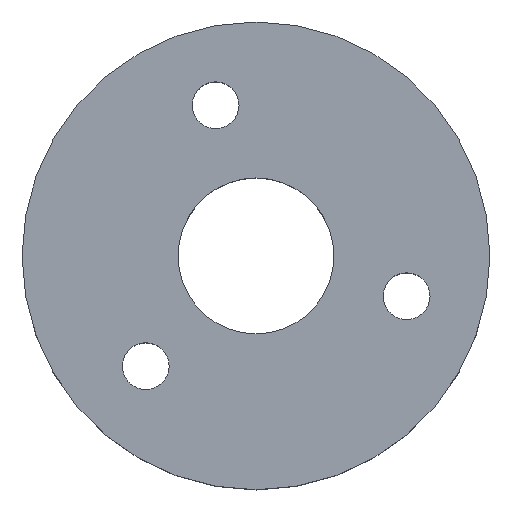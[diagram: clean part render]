
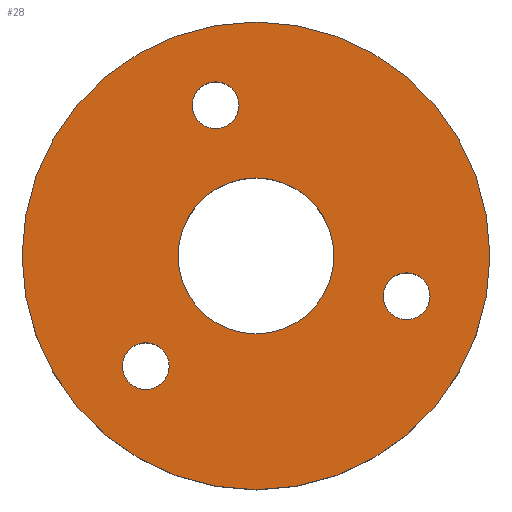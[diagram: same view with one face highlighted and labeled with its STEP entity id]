
A CAD part, top view. The second image highlights one B-rep face of the part: STEP entity #28.
In plain terms, the highlighted planar face has unit normal (0, 0, 1) as drawn and (0, 1, 0) by its records, which use the part's own axes.
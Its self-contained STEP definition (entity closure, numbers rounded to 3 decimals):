
#28 = ADVANCED_FACE('',(#29,#65,#100,#131,#166),#42,.F.);
#29 = FACE_BOUND('',#30,.T.);
#30 = EDGE_LOOP('',(#31));
#31 = ORIENTED_EDGE('',*,*,#32,.F.);
#32 = EDGE_CURVE('',#33,#33,#35,.T.);
#33 = VERTEX_POINT('',#34);
#34 = CARTESIAN_POINT('',(30.,15.,0.));
#35 = SURFACE_CURVE('',#36,(#41,#53),.PCURVE_S1.);
#36 = CIRCLE('',#37,30.);
#37 = AXIS2_PLACEMENT_3D('',#38,#39,#40);
#38 = CARTESIAN_POINT('',(0.,15.,0.));
#39 = DIRECTION('',(0.,-1.,0.));
#40 = DIRECTION('',(1.,0.,0.));
#41 = PCURVE('',#42,#47);
#42 = PLANE('',#43);
#43 = AXIS2_PLACEMENT_3D('',#44,#45,#46);
#44 = CARTESIAN_POINT('',(0.,15.,0.));
#45 = DIRECTION('',(0.,-1.,0.));
#46 = DIRECTION('',(1.,0.,0.));
#47 = DEFINITIONAL_REPRESENTATION('',(#48),#52);
#48 = CIRCLE('',#49,30.);
#49 = AXIS2_PLACEMENT_2D('',#50,#51);
#50 = CARTESIAN_POINT('',(0.,0.));
#51 = DIRECTION('',(1.,0.));
#52 = ( GEOMETRIC_REPRESENTATION_CONTEXT(2) 
PARAMETRIC_REPRESENTATION_CONTEXT() REPRESENTATION_CONTEXT('2D SPACE',''
  ) );
#53 = PCURVE('',#54,#59);
#54 = CYLINDRICAL_SURFACE('',#55,30.);
#55 = AXIS2_PLACEMENT_3D('',#56,#57,#58);
#56 = CARTESIAN_POINT('',(0.,15.,0.));
#57 = DIRECTION('',(0.,-1.,0.));
#58 = DIRECTION('',(1.,0.,0.));
#59 = DEFINITIONAL_REPRESENTATION('',(#60),#64);
#60 = LINE('',#61,#62);
#61 = CARTESIAN_POINT('',(0.,0.));
#62 = VECTOR('',#63,1.);
#63 = DIRECTION('',(1.,0.));
#64 = ( GEOMETRIC_REPRESENTATION_CONTEXT(2) 
PARAMETRIC_REPRESENTATION_CONTEXT() REPRESENTATION_CONTEXT('2D SPACE',''
  ) );
#65 = FACE_BOUND('',#66,.T.);
#66 = EDGE_LOOP('',(#67));
#67 = ORIENTED_EDGE('',*,*,#68,.F.);
#68 = EDGE_CURVE('',#69,#69,#71,.T.);
#69 = VERTEX_POINT('',#70);
#70 = CARTESIAN_POINT('',(-8.176,15.,-19.319));
#71 = SURFACE_CURVE('',#72,(#77,#88),.PCURVE_S1.);
#72 = CIRCLE('',#73,3.);
#73 = AXIS2_PLACEMENT_3D('',#74,#75,#76);
#74 = CARTESIAN_POINT('',(-5.176,15.,-19.319));
#75 = DIRECTION('',(0.,1.,0.));
#76 = DIRECTION('',(-1.,0.,0.));
#77 = PCURVE('',#42,#78);
#78 = DEFINITIONAL_REPRESENTATION('',(#79),#87);
#79 = ( BOUNDED_CURVE() B_SPLINE_CURVE(2,(#80,#81,#82,#83,#84,#85,#86),
.UNSPECIFIED.,.T.,.F.) B_SPLINE_CURVE_WITH_KNOTS((1,2,2,2,2,1),(
    -2.094,0.,2.094,4.189,6.283,
8.378),.UNSPECIFIED.) CURVE() GEOMETRIC_REPRESENTATION_ITEM() 
RATIONAL_B_SPLINE_CURVE((1.,0.5,1.,0.5,1.,0.5,1.)) REPRESENTATION_ITEM(
  '') );
#80 = CARTESIAN_POINT('',(-8.176,-19.319));
#81 = CARTESIAN_POINT('',(-8.176,-14.122));
#82 = CARTESIAN_POINT('',(-3.676,-16.72));
#83 = CARTESIAN_POINT('',(0.824,-19.319));
#84 = CARTESIAN_POINT('',(-3.676,-21.917));
#85 = CARTESIAN_POINT('',(-8.176,-24.515));
#86 = CARTESIAN_POINT('',(-8.176,-19.319));
#87 = ( GEOMETRIC_REPRESENTATION_CONTEXT(2) 
PARAMETRIC_REPRESENTATION_CONTEXT() REPRESENTATION_CONTEXT('2D SPACE',''
  ) );
#88 = PCURVE('',#89,#94);
#89 = CYLINDRICAL_SURFACE('',#90,3.);
#90 = AXIS2_PLACEMENT_3D('',#91,#92,#93);
#91 = CARTESIAN_POINT('',(-5.176,15.,-19.319));
#92 = DIRECTION('',(0.,1.,0.));
#93 = DIRECTION('',(-1.,0.,0.));
#94 = DEFINITIONAL_REPRESENTATION('',(#95),#99);
#95 = LINE('',#96,#97);
#96 = CARTESIAN_POINT('',(0.,0.));
#97 = VECTOR('',#98,1.);
#98 = DIRECTION('',(1.,0.));
#99 = ( GEOMETRIC_REPRESENTATION_CONTEXT(2) 
PARAMETRIC_REPRESENTATION_CONTEXT() REPRESENTATION_CONTEXT('2D SPACE',''
  ) );
#100 = FACE_BOUND('',#101,.T.);
#101 = EDGE_LOOP('',(#102));
#102 = ORIENTED_EDGE('',*,*,#103,.T.);
#103 = EDGE_CURVE('',#104,#104,#106,.T.);
#104 = VERTEX_POINT('',#105);
#105 = CARTESIAN_POINT('',(10.,15.,0.));
#106 = SURFACE_CURVE('',#107,(#112,#119),.PCURVE_S1.);
#107 = CIRCLE('',#108,10.);
#108 = AXIS2_PLACEMENT_3D('',#109,#110,#111);
#109 = CARTESIAN_POINT('',(0.,15.,0.));
#110 = DIRECTION('',(0.,-1.,0.));
#111 = DIRECTION('',(1.,0.,0.));
#112 = PCURVE('',#42,#113);
#113 = DEFINITIONAL_REPRESENTATION('',(#114),#118);
#114 = CIRCLE('',#115,10.);
#115 = AXIS2_PLACEMENT_2D('',#116,#117);
#116 = CARTESIAN_POINT('',(0.,0.));
#117 = DIRECTION('',(1.,0.));
#118 = ( GEOMETRIC_REPRESENTATION_CONTEXT(2) 
PARAMETRIC_REPRESENTATION_CONTEXT() REPRESENTATION_CONTEXT('2D SPACE',''
  ) );
#119 = PCURVE('',#120,#125);
#120 = CYLINDRICAL_SURFACE('',#121,10.);
#121 = AXIS2_PLACEMENT_3D('',#122,#123,#124);
#122 = CARTESIAN_POINT('',(0.,0.,0.));
#123 = DIRECTION('',(0.,1.,0.));
#124 = DIRECTION('',(1.,0.,0.));
#125 = DEFINITIONAL_REPRESENTATION('',(#126),#130);
#126 = LINE('',#127,#128);
#127 = CARTESIAN_POINT('',(-0.,15.));
#128 = VECTOR('',#129,1.);
#129 = DIRECTION('',(-1.,0.));
#130 = ( GEOMETRIC_REPRESENTATION_CONTEXT(2) 
PARAMETRIC_REPRESENTATION_CONTEXT() REPRESENTATION_CONTEXT('2D SPACE',''
  ) );
#131 = FACE_BOUND('',#132,.T.);
#132 = EDGE_LOOP('',(#133));
#133 = ORIENTED_EDGE('',*,*,#134,.F.);
#134 = EDGE_CURVE('',#135,#135,#137,.T.);
#135 = VERTEX_POINT('',#136);
#136 = CARTESIAN_POINT('',(-17.142,15.,14.142));
#137 = SURFACE_CURVE('',#138,(#143,#154),.PCURVE_S1.);
#138 = CIRCLE('',#139,3.);
#139 = AXIS2_PLACEMENT_3D('',#140,#141,#142);
#140 = CARTESIAN_POINT('',(-14.142,15.,14.142));
#141 = DIRECTION('',(0.,1.,0.));
#142 = DIRECTION('',(-1.,0.,0.));
#143 = PCURVE('',#42,#144);
#144 = DEFINITIONAL_REPRESENTATION('',(#145),#153);
#145 = ( BOUNDED_CURVE() B_SPLINE_CURVE(2,(#146,#147,#148,#149,#150,#151
,#152),.UNSPECIFIED.,.T.,.F.) B_SPLINE_CURVE_WITH_KNOTS((1,2,2,2,2,1),(
    -2.094,0.,2.094,4.189,6.283,
8.378),.UNSPECIFIED.) CURVE() GEOMETRIC_REPRESENTATION_ITEM() 
RATIONAL_B_SPLINE_CURVE((1.,0.5,1.,0.5,1.,0.5,1.)) REPRESENTATION_ITEM(
  '') );
#146 = CARTESIAN_POINT('',(-17.142,14.142));
#147 = CARTESIAN_POINT('',(-17.142,19.338));
#148 = CARTESIAN_POINT('',(-12.642,16.74));
#149 = CARTESIAN_POINT('',(-8.142,14.142));
#150 = CARTESIAN_POINT('',(-12.642,11.544));
#151 = CARTESIAN_POINT('',(-17.142,8.946));
#152 = CARTESIAN_POINT('',(-17.142,14.142));
#153 = ( GEOMETRIC_REPRESENTATION_CONTEXT(2) 
PARAMETRIC_REPRESENTATION_CONTEXT() REPRESENTATION_CONTEXT('2D SPACE',''
  ) );
#154 = PCURVE('',#155,#160);
#155 = CYLINDRICAL_SURFACE('',#156,3.);
#156 = AXIS2_PLACEMENT_3D('',#157,#158,#159);
#157 = CARTESIAN_POINT('',(-14.142,15.,14.142));
#158 = DIRECTION('',(0.,1.,0.));
#159 = DIRECTION('',(-1.,0.,0.));
#160 = DEFINITIONAL_REPRESENTATION('',(#161),#165);
#161 = LINE('',#162,#163);
#162 = CARTESIAN_POINT('',(0.,0.));
#163 = VECTOR('',#164,1.);
#164 = DIRECTION('',(1.,0.));
#165 = ( GEOMETRIC_REPRESENTATION_CONTEXT(2) 
PARAMETRIC_REPRESENTATION_CONTEXT() REPRESENTATION_CONTEXT('2D SPACE',''
  ) );
#166 = FACE_BOUND('',#167,.T.);
#167 = EDGE_LOOP('',(#168));
#168 = ORIENTED_EDGE('',*,*,#169,.F.);
#169 = EDGE_CURVE('',#170,#170,#172,.T.);
#170 = VERTEX_POINT('',#171);
#171 = CARTESIAN_POINT('',(16.319,15.,5.176));
#172 = SURFACE_CURVE('',#173,(#178,#189),.PCURVE_S1.);
#173 = CIRCLE('',#174,3.);
#174 = AXIS2_PLACEMENT_3D('',#175,#176,#177);
#175 = CARTESIAN_POINT('',(19.319,15.,5.176));
#176 = DIRECTION('',(0.,1.,0.));
#177 = DIRECTION('',(-1.,0.,0.));
#178 = PCURVE('',#42,#179);
#179 = DEFINITIONAL_REPRESENTATION('',(#180),#188);
#180 = ( BOUNDED_CURVE() B_SPLINE_CURVE(2,(#181,#182,#183,#184,#185,#186
,#187),.UNSPECIFIED.,.T.,.F.) B_SPLINE_CURVE_WITH_KNOTS((1,2,2,2,2,1),(
    -2.094,0.,2.094,4.189,6.283,
8.378),.UNSPECIFIED.) CURVE() GEOMETRIC_REPRESENTATION_ITEM() 
RATIONAL_B_SPLINE_CURVE((1.,0.5,1.,0.5,1.,0.5,1.)) REPRESENTATION_ITEM(
  '') );
#181 = CARTESIAN_POINT('',(16.319,5.176));
#182 = CARTESIAN_POINT('',(16.319,10.373));
#183 = CARTESIAN_POINT('',(20.819,7.774));
#184 = CARTESIAN_POINT('',(25.319,5.176));
#185 = CARTESIAN_POINT('',(20.819,2.578));
#186 = CARTESIAN_POINT('',(16.319,-0.02));
#187 = CARTESIAN_POINT('',(16.319,5.176));
#188 = ( GEOMETRIC_REPRESENTATION_CONTEXT(2) 
PARAMETRIC_REPRESENTATION_CONTEXT() REPRESENTATION_CONTEXT('2D SPACE',''
  ) );
#189 = PCURVE('',#190,#195);
#190 = CYLINDRICAL_SURFACE('',#191,3.);
#191 = AXIS2_PLACEMENT_3D('',#192,#193,#194);
#192 = CARTESIAN_POINT('',(19.319,15.,5.176));
#193 = DIRECTION('',(0.,1.,0.));
#194 = DIRECTION('',(-1.,0.,0.));
#195 = DEFINITIONAL_REPRESENTATION('',(#196),#200);
#196 = LINE('',#197,#198);
#197 = CARTESIAN_POINT('',(0.,0.));
#198 = VECTOR('',#199,1.);
#199 = DIRECTION('',(1.,0.));
#200 = ( GEOMETRIC_REPRESENTATION_CONTEXT(2) 
PARAMETRIC_REPRESENTATION_CONTEXT() REPRESENTATION_CONTEXT('2D SPACE',''
  ) );
